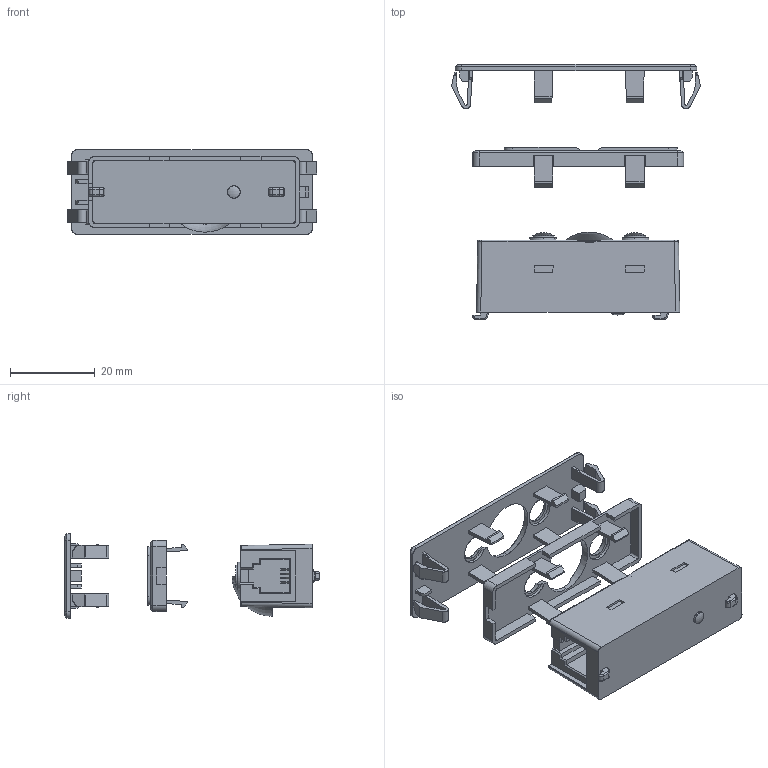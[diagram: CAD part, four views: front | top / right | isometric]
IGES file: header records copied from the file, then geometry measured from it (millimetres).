
Start section: SolidWorks IGES file using analytic representation for surfaces
Global section: file name: C:\Users\Public\HAOSENSOFTWARE\YFTSolidWorksArasPLM-V3.1.3-2023-beta\SaveAs_files\9C1-4551274-000-00.IGS; native system: SolidWorks 2023; preprocessor: SolidWorks 2023; author: P.SACHSENWEGER; date: 251008.135349; units: millimetre
Bounding box: 58.99 x 60.3 x 20 mm (x, y, z)
Surface area: 9992.8 mm2 (no closed solid volume)
Topology: 0 solids, 0 shells, 553 faces, 4792 edges, 4789 vertices
Faces by surface type: bspline 380, revolution 173
